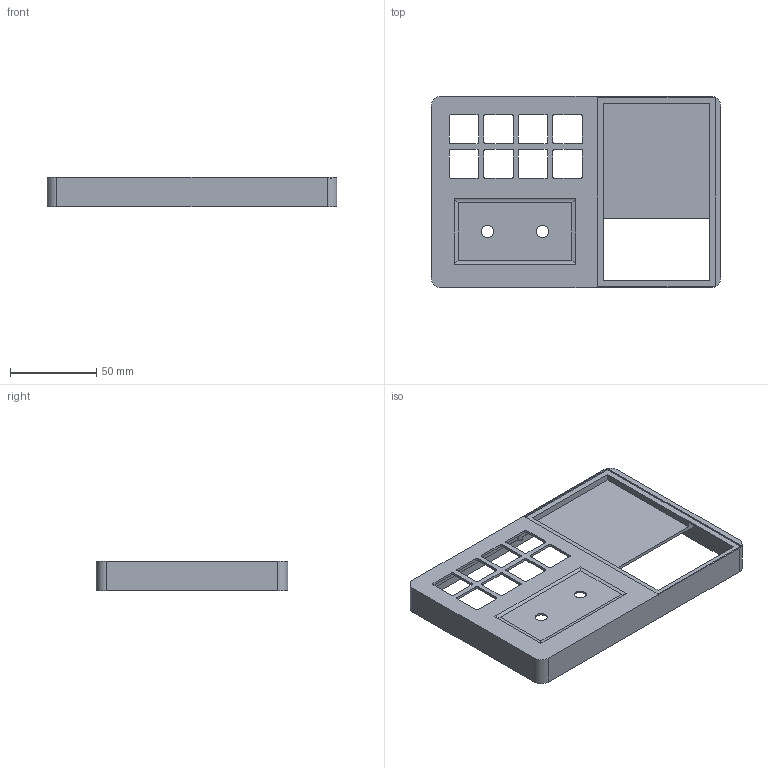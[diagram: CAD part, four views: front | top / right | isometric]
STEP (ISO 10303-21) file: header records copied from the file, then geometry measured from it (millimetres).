
FILE_DESCRIPTION(/* description */ ('STEP AP242 Edition 2','CAx-IF Rec.Pracs.---Representation and Presentation of Product Manufacturing Information (PMI)---4.0---2014-10-13','CAx-IF Rec.Pracs.---3D Tessellated Geometry---0.4---2014-09-14','2;1','CAx-IF Rec.Pracs.---User Defined Attributes---1.5---2016-08-15'),/* implementation_level */ '2;1');
FILE_NAME(/* name */ 'Assembly 1 - Part 1 (13)',/* time_stamp */ '2026-07-23T10:03:21Z',/* author */ (''),/* organization */ (''),/* preprocessor_version */ 'ST-DEVELOPER v20',/* originating_system */ 'ONSHAPE BY PTC INC, 1.218',/* authorisation */ ' ');
FILE_SCHEMA (('AP242_MANAGED_MODEL_BASED_3D_ENGINEERING_MIM_LF { 1 0 10303 442 3 1 4 }'));
Length unit declared in the file: metre
Products named in the file (1): Part 1
Bounding box: 167.9 x 110.9 x 17 mm (x, y, z)
Volume: 41159.5 mm3; surface area: 48886.2 mm2
Topology: 1 solids, 1 shells, 141 faces, 387 edges, 258 vertices
Faces by surface type: plane 78, cylinder 63
Full cylindrical faces by diameter (mm): 3 x5, 7 x2, 7.5 x3
Entity records: 4525 total; most frequent: DIRECTION 785, CARTESIAN_POINT 777, ORIENTED_EDGE 754, EDGE_CURVE 377, AXIS2_PLACEMENT_3D 266, VERTEX_POINT 258, LINE 253, VECTOR 253
